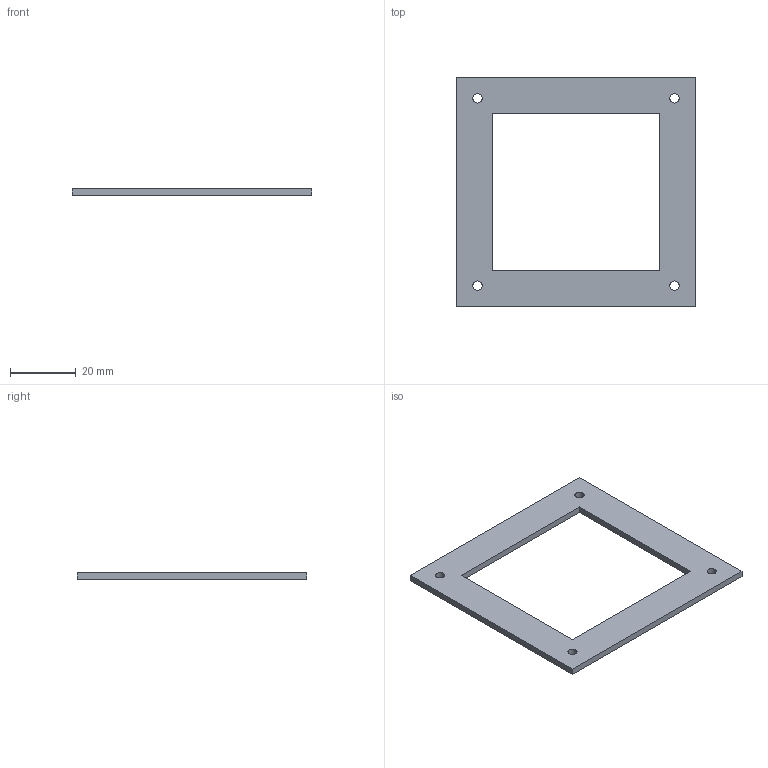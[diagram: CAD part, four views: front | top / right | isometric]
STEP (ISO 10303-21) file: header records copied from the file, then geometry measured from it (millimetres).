
FILE_DESCRIPTION(('Open CASCADE Model'),'2;1');
FILE_NAME('Open CASCADE Shape Model','2026-09-13T21:36:11',('Author'),( 'Open CASCADE'),'Open CASCADE STEP processor 7.9','Open CASCADE 7.9' ,'Unknown');
FILE_SCHEMA(('AUTOMOTIVE_DESIGN { 1 0 10303 214 1 1 1 1 }'));
Length unit declared in the file: millimetre
Products named in the file (1): Open CASCADE STEP translator 7.9 10
Bounding box: 73 x 70 x 2 mm (x, y, z)
Volume: 5274.7 mm3; surface area: 6313.1 mm2
Topology: 1 solids, 1 shells, 14 faces, 36 edges, 24 vertices
Faces by surface type: plane 10, cylinder 4
Full cylindrical faces by diameter (mm): 2.8 x4
Entity records: 910 total; most frequent: CARTESIAN_POINT 163, DIRECTION 130, LINE 76, VECTOR 76, ORIENTED_EDGE 72, PCURVE 72, DEFINITIONAL_REPRESENTATION 72, EDGE_CURVE 36
